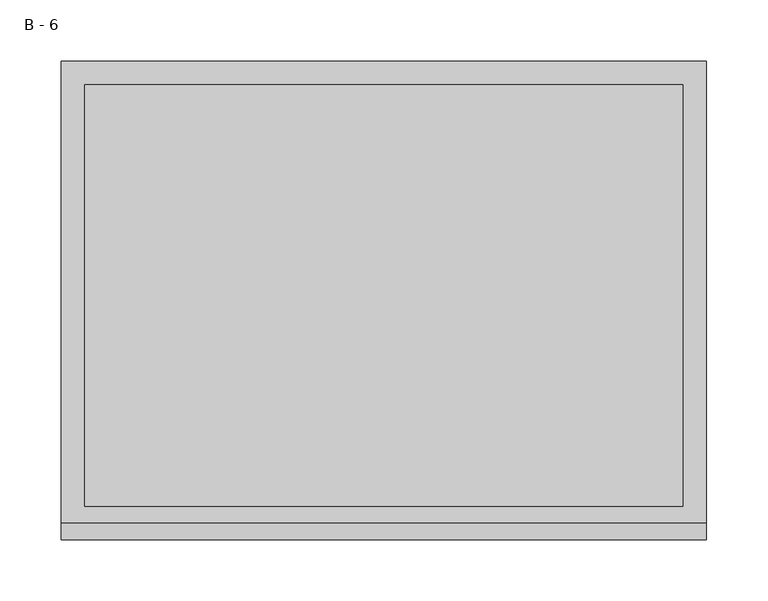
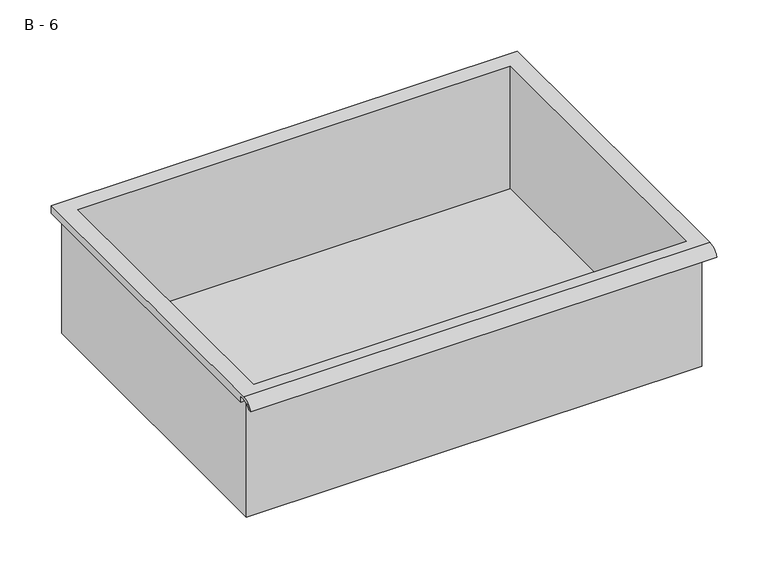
"""IFC4 building model written with IfcOpenShell, lengths in millimetres: furniture geometry, HermanMiller_CoStruc_CO207_Drawer : B - 6."""

import ifcopenshell
import ifcopenshell.guid

model = None  # the IFC model being written
_history = None  # IfcOwnerHistory: only IFC2X3 demands one
_inside = {}  # id of a spatial element -> (the spatial element, [elements in it])
_under = {}  # id of a project, library or spatial element -> (it, [spatial elements below it])
_declared = {}  # id of a project -> (the project, [libraries it declares])
_typed = {}  # id of a type object -> (the type object, [elements of that type])
_made_of = {}  # id of a material, layer set ... -> (it, [elements and type objects made of it])


def new_model(schema):
    """Start an empty IFC model of exactly this schema.

    Asked for "IFC4X3", IfcOpenShell would pick the latest addendum, in which some entities
    have other attributes; the version numbers below select the first issue.
    IFC2X3 requires an IfcOwnerHistory on every rooted entity: one is made here for all.
    """
    global model, _history
    if schema == "IFC4X3":
        model = ifcopenshell.file(schema_version=(4, 3, 0, 0))
    else:
        model = ifcopenshell.file(schema=schema)
    _inside.clear()
    _under.clear()
    _declared.clear()
    _typed.clear()
    _made_of.clear()
    _history = None
    if model.schema == "IFC2X3":
        org = make("IfcOrganization", Name="unknown")
        user = make(
            "IfcPersonAndOrganization",
            ThePerson=make("IfcPerson", FamilyName="unknown"),
            TheOrganization=org,
        )
        app = make(
            "IfcApplication",
            ApplicationDeveloper=org,
            Version="unknown",
            ApplicationFullName="unknown",
            ApplicationIdentifier="unknown",
        )
        _history = make(
            "IfcOwnerHistory",
            OwningUser=user,
            OwningApplication=app,
            ChangeAction="ADDED",
            CreationDate=0,
        )
    return model


def make(cls, **values):
    """One entity of the class cls with the attributes given. An attribute that is None is left unset."""
    return model.create_entity(
        cls, **{name: value for name, value in values.items() if value is not None}
    )


def rooted(cls, **values):
    """An entity with a GlobalId (a new one), such as an element, a storey or a relation."""
    return make(cls, GlobalId=ifcopenshell.guid.new(), OwnerHistory=_history, **values)


def si_unit(unit_type, name, prefix=None):
    """IfcSIUnit, for example si_unit("LENGTHUNIT", "METRE", prefix="MILLI")."""
    return make("IfcSIUnit", UnitType=unit_type, Prefix=prefix, Name=name)


def assignment(units):
    """IfcUnitAssignment: the units of a project."""
    return None if units is None else make("IfcUnitAssignment", Units=units)


def point(xyz):
    """IfcCartesianPoint."""
    return None if xyz is None else make("IfcCartesianPoint", Coordinates=xyz)


def direction(xyz):
    """IfcDirection."""
    return None if xyz is None else make("IfcDirection", DirectionRatios=xyz)


def frame(location, z_axis=None, x_axis=None):
    """IfcAxis2Placement3D, a coordinate frame: its origin and axes. An axis left out is left unset."""
    return make(
        "IfcAxis2Placement3D",
        Location=point(location),
        Axis=direction(z_axis),
        RefDirection=direction(x_axis),
    )


def origin():
    """The frame at (0, 0, 0) with its axes left unset."""
    return frame((0.0, 0.0, 0.0))


def place(relative_to, where):
    """IfcLocalPlacement: puts the frame where relative to a parent placement (None: the world)."""
    return make(
        "IfcLocalPlacement", PlacementRelTo=relative_to, RelativePlacement=where
    )


def context(
    kind, dimensions, precision=None, world=None, true_north=None, identifier=None
):
    """IfcGeometricRepresentationContext, for example the 3D "Model" context."""
    return make(
        "IfcGeometricRepresentationContext",
        ContextIdentifier=identifier,
        ContextType=kind,
        CoordinateSpaceDimension=dimensions,
        Precision=precision,
        WorldCoordinateSystem=world,
        TrueNorth=true_north,
    )


def project(units=None, contexts=None):
    """IfcProject with its units and contexts."""
    return rooted(
        "IfcProject",
        Name="project",
        RepresentationContexts=contexts,
        UnitsInContext=assignment(units),
    )


def spatial(cls, under=None, at=None, **own):
    """A site, building, storey or space (cls), placed at a placement, below another one or the project."""
    s = rooted(cls, ObjectPlacement=at, **own)
    if under is not None:
        _under.setdefault(under.id(), (under, []))[1].append(s)
    return s


def polyline(points):
    """IfcPolyline through the points."""
    return make("IfcPolyline", Points=[point(p) for p in points])


def circle_curve(where, radius):
    """IfcCircle in the frame where."""
    return make("IfcCircle", Position=where, Radius=radius)


def shape(context_of_items, identifier, shape_type, items):
    """IfcShapeRepresentation: the items that make up one representation, for example the "Body"."""
    return make(
        "IfcShapeRepresentation",
        ContextOfItems=context_of_items,
        RepresentationIdentifier=identifier,
        RepresentationType=shape_type,
        Items=items,
    )


def source(mapping_origin, context_of_items, identifier, shape_type, items):
    """IfcRepresentationMap: a shape defined once, which mapped items show again and again."""
    return make(
        "IfcRepresentationMap",
        MappingOrigin=mapping_origin,
        MappedRepresentation=shape(context_of_items, identifier, shape_type, items),
    )


def transform(
    local_origin,
    x_axis=None,
    y_axis=None,
    z_axis=None,
    scale=None,
    scale2=None,
    scale3=None,
    uniform=True,
):
    """IfcCartesianTransformationOperator3D, or its non-uniform kind. x_axis, y_axis, z_axis: its Axis1, 2, 3."""
    if uniform:
        return make(
            "IfcCartesianTransformationOperator3D",
            Axis1=direction(x_axis),
            Axis2=direction(y_axis),
            LocalOrigin=point(local_origin),
            Scale=scale,
            Axis3=direction(z_axis),
        )
    return make(
        "IfcCartesianTransformationOperator3DnonUniform",
        Axis1=direction(x_axis),
        Axis2=direction(y_axis),
        LocalOrigin=point(local_origin),
        Scale=scale,
        Axis3=direction(z_axis),
        Scale2=scale2,
        Scale3=scale3,
    )


def mapped(mapping_source, mapping_target):
    """IfcMappedItem: shows the shape of a source again, moved by a transform."""
    return make(
        "IfcMappedItem", MappingSource=mapping_source, MappingTarget=mapping_target
    )


def made_of(thing, what):
    """Note that an element or type object is made of a material, layer set ...; save() writes the relation."""
    if what is not None:
        _made_of.setdefault(what.id(), (what, []))[1].append(thing)
    return thing


def element(
    cls,
    number,
    at=None,
    inside=None,
    cuts=None,
    type_object=None,
    material=None,
    context=None,
    identifier="Body",
    shape_type=None,
    held_by="IfcProductDefinitionShape",
    body=None,
    shapes=None,
    **own,
):
    """One element of the class cls, such as IfcWall. Its Tag is "e" and its number.

    at: its placement. inside: the storey or other place that contains it. cuts: it is an
    opening in that element (IfcRelVoidsElement). A single representation is given by context,
    identifier, shape_type and body (its items); several are given by shapes. held_by: the class
    of the entity that holds the representations. save() writes the other relations.
    """
    e = rooted(cls, Tag="e%d" % number, ObjectPlacement=at, **own)
    if body is not None:
        shapes = [shape(context, identifier, shape_type, body)]
    if shapes is not None:
        e.Representation = make(held_by, Representations=shapes)
    if inside is not None:
        _inside.setdefault(inside.id(), (inside, []))[1].append(e)
    if cuts is not None:
        rooted(
            "IfcRelVoidsElement", RelatingBuildingElement=cuts, RelatedOpeningElement=e
        )
    if type_object is not None:
        _typed.setdefault(type_object.id(), (type_object, []))[1].append(e)
    return made_of(e, material)


def aggregate(whole, parts):
    """IfcRelAggregates: a whole, such as a stair, and the parts it consists of."""
    return rooted("IfcRelAggregates", RelatingObject=whole, RelatedObjects=parts)


def save(model, path):
    """Write the relations noted so far, then the file.

    IfcRelAggregates (storeys below a building ...), IfcRelContainedInSpatialStructure (elements
    in a storey), IfcRelDefinesByType, IfcRelAssociatesMaterial and IfcRelDeclares: one each for
    every whole, place, type object, material and project.
    """
    for whole, parts in _under.values():
        aggregate(whole, parts)
    for where, things in _inside.values():
        rooted(
            "IfcRelContainedInSpatialStructure",
            RelatedElements=things,
            RelatingStructure=where,
        )
    for kind, things in _typed.values():
        rooted("IfcRelDefinesByType", RelatedObjects=things, RelatingType=kind)
    for what, things in _made_of.values():
        rooted("IfcRelAssociatesMaterial", RelatedObjects=things, RelatingMaterial=what)
    for by, libraries in _declared.values():
        rooted("IfcRelDeclares", RelatingContext=by, RelatedDefinitions=libraries)
    model.write(path)


def plane_surface(at):
    """IfcPlane: the flat surface through the origin of the frame at, square to its z axis."""
    return make("IfcPlane", Position=at)


def cylinder_surface(at, radius):
    """IfcCylindricalSurface: all points at the distance radius from the z axis of the frame at."""
    return make("IfcCylindricalSurface", Position=at, Radius=radius)


def revolved_surface(curve, axis_point, axis_direction):
    """IfcSurfaceOfRevolution: the curve turned about the line through axis_point along axis_direction."""
    return make(
        "IfcSurfaceOfRevolution",
        SweptCurve=make("IfcArbitraryOpenProfileDef", ProfileType="CURVE", Curve=curve),
        AxisPosition=make("IfcAxis1Placement", Location=point(axis_point), Axis=direction(axis_direction)),
    )


def advanced_brep(points, edges, surfaces, faces):
    """IfcAdvancedBrep: a solid bounded by faces that lie on surfaces and meet in shared edges.

    An edge is (start, end): straight between two places in points (the first is 0);
    or (start, end, curve); or (start, end, curve, False) where it runs against its curve.
    A face is (place in surfaces, loops), or (place, loops, False) where it looks against
    its surface's normal. A loop lists edges by number (the first is 1), with a minus sign
    where the edge is run from its end to its start. The first loop is the outer one.
    """
    corners = [point(p) for p in points]
    vertices = [make("IfcVertexPoint", VertexGeometry=c) for c in corners]
    made = []
    for start, end, *more in edges:
        made.append(
            make(
                "IfcEdgeCurve",
                EdgeStart=vertices[start],
                EdgeEnd=vertices[end],
                EdgeGeometry=more[0] if more else make("IfcPolyline", Points=[corners[start], corners[end]]),
                SameSense=more[1] if len(more) > 1 else True,
            )
        )
    hull = []
    for where, loops, *sense in faces:
        bounds = []
        for j, loop in enumerate(loops):
            ring = [make("IfcOrientedEdge", EdgeElement=made[abs(k) - 1], Orientation=k > 0) for k in loop]
            bounds.append(
                make(
                    "IfcFaceOuterBound" if j == 0 else "IfcFaceBound",
                    Bound=make("IfcEdgeLoop", EdgeList=ring),
                    Orientation=True,
                )
            )
        hull.append(make("IfcAdvancedFace", Bounds=bounds, FaceSurface=surfaces[where], SameSense=sense[0] if sense else True))
    return make("IfcAdvancedBrep", Outer=make("IfcClosedShell", CfsFaces=hull))


def b_6_e7e615e0(model_context):
    return source(origin(), model_context, "Body", "AdvancedBrep", [
        advanced_brep(
        [(-257.1076517, -176.2125, 418.30752), (257.2423483, -176.2125, 418.30752), (257.2423483, -176.2125, 558.00752), (263.5923483, -176.2125, 558.00752), (263.5923483, -176.2125, 564.3146541), (-263.4576517, -176.2125, 564.3146541), (-263.4576517, -176.2125, 558.00752), (-257.1076517, -176.2125, 558.00752), (257.2423483, 185.7375, 418.30752), (-257.1076517, 185.7375, 418.30752), (-257.1076517, 185.7375, 558.00752), (257.2423483, 185.7375, 558.00752), (263.5923483, -181.6070544, 567.53252), (263.5923483, 195.2625, 567.53252), (-263.4576517, 195.2625, 567.53252), (-263.4576517, -181.6070544, 567.53252), (244.5423483, -168.275, 567.53252), (-244.4076517, -168.275, 567.53252), (-244.4076517, 176.2125, 567.53252), (244.5423483, 176.2125, 567.53252), (263.5923483, -195.2625, 558.00752), (263.5923483, -191.8280601, 558.00752), (263.5923483, -180.4714815, 564.3146541), (263.5923483, 195.2625, 558.00752), (-263.4576517, 195.2625, 558.00752), (-263.4576517, -180.4714815, 564.3146541), (-263.4576517, -191.8280601, 558.00752), (-263.4576517, -195.2625, 558.00752), (-244.4076517, -168.275, 421.3336919), (244.5423483, -168.275, 421.3336919), (244.5423483, 176.2125, 421.3336919), (-244.4076517, 176.2125, 421.3336919)],
        [
            (0, 1),
            (1, 2),
            (2, 3),
            (3, 4),
            (4, 5),
            (5, 6),
            (6, 7),
            (7, 0),
            (8, 9),
            (9, 10),
            (10, 11),
            (11, 8),
            (0, 9),
            (8, 1),
            (11, 2),
            (12, 13),
            (13, 14),
            (14, 15),
            (15, 12),
            (16, 17),
            (17, 18),
            (18, 19),
            (19, 16),
            (7, 10),
            (12, 20, circle_curve(frame((263.5923483, -181.6070544, 552.9815059), z_axis=(1.0, 0.0, 0.0), x_axis=(0.0, 1.0, 0.0)), 14.5510141)),
            (20, 21),
            (21, 22, circle_curve(frame((263.5923483, -181.6070544, 552.9815059), z_axis=(-1.0, 0.0, 0.0), x_axis=(0.0, 1.0, 0.0)), 11.3898979)),
            (22, 4),
            (3, 23),
            (23, 13),
            (14, 24),
            (24, 6),
            (5, 25),
            (25, 26, circle_curve(frame((-263.4576517, -181.6070544, 552.9815059), z_axis=(1.0, 0.0, 0.0), x_axis=(0.0, 1.0, 0.0)), 11.3898979)),
            (26, 27),
            (27, 15, circle_curve(frame((-263.4576517, -181.6070544, 552.9815059), z_axis=(-1.0, 0.0, 0.0), x_axis=(0.0, 1.0, 0.0)), 14.5510141)),
            (27, 20),
            (26, 21),
            (25, 22),
            (24, 23),
            (28, 29),
            (29, 30),
            (30, 31),
            (31, 28),
            (28, 17),
            (16, 29),
            (19, 30),
            (18, 31),
        ],
        [
            plane_surface(frame((257.2423483, -176.2125, 418.30752), z_axis=(0.0, -1.0, 0.0), x_axis=(1.0, 0.0, 0.0))),
            plane_surface(frame((257.2423483, 185.7375, 418.30752), z_axis=(0.0, 1.0, 0.0), x_axis=(-1.0, 0.0, 0.0))),
            plane_surface(frame((-257.1076517, -176.2125, 418.30752), z_axis=(0.0, 0.0, -1.0), x_axis=(0.0, 1.0, 0.0))),
            plane_surface(frame((257.2423483, -176.2125, 418.30752), z_axis=(1.0, 0.0, 0.0), x_axis=(0.0, 1.0, 0.0))),
            plane_surface(frame((257.2423483, -176.2125, 567.53252), z_axis=(0.0, 0.0, 1.0), x_axis=(0.0, 1.0, 0.0))),
            plane_surface(frame((-257.1076517, -176.2125, 567.53252), z_axis=(-1.0, 0.0, 0.0), x_axis=(0.0, 1.0, 0.0))),
            plane_surface(frame((263.5923483, 195.2625, 567.53252), z_axis=(1.0, 0.0, 0.0), x_axis=(0.0, -1.0, 0.0))),
            plane_surface(frame((-263.4576517, 195.2625, 567.53252), z_axis=(-1.0, 0.0, 0.0), x_axis=(0.0, 1.0, 0.0))),
            cylinder_surface(frame((-263.4576517, -181.6070544, 552.9815059), z_axis=(1.0, 0.0, 0.0), x_axis=(0.0, 1.0, 0.0)), 14.5510141),
            plane_surface(frame((263.5923483, -195.2625, 558.00752), z_axis=(0.0, -7.271527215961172e-12, -1.0), x_axis=(-1.0, 0.0, 0.0))),
            revolved_surface(polyline([(-263.4576517, -170.21715650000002, 552.9815059), (263.59234829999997, -170.21715650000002, 552.9815059)]), (-263.4576517, -181.6070544, 552.9815059), (-1.0, 0.0, 0.0)),
            plane_surface(frame((263.5923483, -180.4714815, 564.3146541), z_axis=(0.0, -1.803621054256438e-11, -1.0), x_axis=(-1.0, 0.0, 0.0))),
            plane_surface(frame((263.5923483, -176.2125, 558.00752), z_axis=(0.0, 0.0, -1.0), x_axis=(-1.0, 0.0, 0.0))),
            plane_surface(frame((263.5923483, 195.2625, 558.00752), z_axis=(0.0, 1.0, 0.0), x_axis=(-1.0, 0.0, 0.0))),
            plane_surface(frame((244.5423483, -168.275, 421.3336919), z_axis=(0.0, 0.0, 1.0), x_axis=(-1.0, 0.0, 0.0))),
            plane_surface(frame((-244.4076517, -168.275, 567.53252), z_axis=(0.0, 1.0, 0.0), x_axis=(0.0, 0.0, -1.0))),
            plane_surface(frame((244.5423483, -168.275, 567.53252), z_axis=(-1.0, 0.0, 0.0), x_axis=(0.0, 0.0, -1.0))),
            plane_surface(frame((244.5423483, 176.2125, 567.53252), z_axis=(0.0, -1.0, 0.0), x_axis=(0.0, 0.0, -1.0))),
            plane_surface(frame((-244.4076517, 176.2125, 567.53252), z_axis=(1.0, 0.0, 0.0), x_axis=(0.0, 0.0, -1.0))),
        ],
        [
            (0, [[1, 2, 3, 4, 5, 6, 7, 8]]),
            (1, [[9, 10, 11, 12]]),
            (2, [[-1, 13, -9, 14]]),
            (3, [[-14, -12, 15, -2]]),
            (4, [[16, 17, 18, 19], [20, 21, 22, 23]]),
            (5, [[-13, -8, 24, -10]]),
            (6, [[-16, 25, 26, 27, 28, -4, 29, 30]]),
            (7, [[31, 32, -6, 33, 34, 35, 36, -18]]),
            (8, [[-25, -19, -36, 37]]),
            (9, [[-26, -37, -35, 38]]),
            (10, [[-27, -38, -34, 39]]),
            (11, [[-28, -39, -33, -5]]),
            (12, [[-29, -3, -15, -11, -24, -7, -32, 40]]),
            (13, [[-30, -40, -31, -17]]),
            (14, [[41, 42, 43, 44]]),
            (15, [[-41, 45, -20, 46]]),
            (16, [[-42, -46, -23, 47]]),
            (17, [[-43, -47, -22, 48]]),
            (18, [[-44, -48, -21, -45]]),
        ],
    ),
    ])


if __name__ == "__main__":
    model = new_model("IFC4")
    model_context = context("Model", 3, world=origin())
    ifc_project = project(units=[si_unit("LENGTHUNIT", "METRE", prefix="MILLI")], contexts=[model_context])
    site = spatial("IfcSite", under=ifc_project)
    building = spatial("IfcBuilding", under=site)
    placement = place(None, origin())
    b_6_shape = b_6_e7e615e0(model_context)
    element("IfcFurniture", 1, ObjectType="HermanMiller_CoStruc_CO207_Drawer : B - 6", at=placement, inside=building, context=model_context, shape_type="MappedRepresentation", body=[
        mapped(b_6_shape, transform((0.0, 0.0, 0.0), x_axis=(1.0, 0.0, 0.0), y_axis=(0.0, 1.0, 0.0), z_axis=(0.0, 0.0, 1.0))),
    ])
    save(model, "model.ifc")
